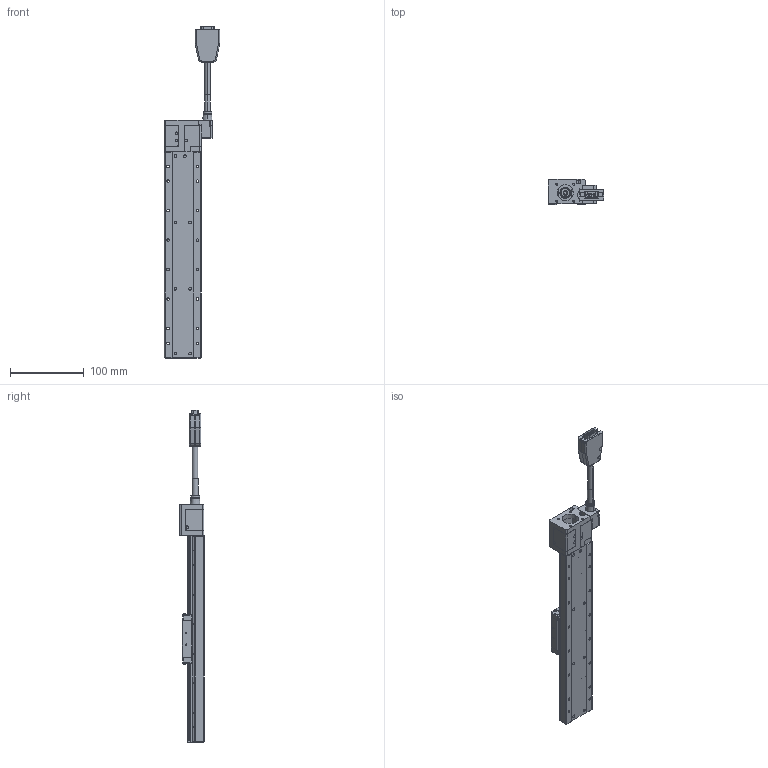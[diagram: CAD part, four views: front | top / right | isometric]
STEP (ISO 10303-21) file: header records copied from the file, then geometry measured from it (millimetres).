
FILE_DESCRIPTION (( 'STEP AP203' ), '1' );
FILE_NAME ('CXN50200-S2?N(42框無馬達).', '2024-01-05T02:36:35', ( '' ), ( '' ), 'SwSTEP 2.0', 'SolidWorks 2019', '' );
FILE_SCHEMA (( 'CONFIG_CONTROL_DESIGN' ));
Length unit declared in the file: millimetre
Products named in the file (3): Group2^CXN50200-S2?N(42框無馬達)_defeature_GMT; Group1^CXN50200-S2?N(42框無馬達)_defeature_GMT; CXN50200-S2?N(42框無馬達)
Assembly tree (2 placements, depth 2):
  CXN50200-S2?N(42框無馬達)
    Group1^CXN50200-S2?N(42框無馬達)_defeature_GMT
    Group2^CXN50200-S2?N(42框無馬達)_defeature_GMT
Bounding box: 75 x 33.5 x 450.6 mm (x, y, z)
Volume: 31082.9 mm3; surface area: 136735.9 mm2
Topology: 2 solids, 56 shells, 4567 faces, 11696 edges, 7114 vertices
Faces by surface type: plane 1616, cylinder 1369, cone 717, torus 349, bspline 320, sphere 196
Entity records: 149938 total; most frequent: CARTESIAN_POINT 40611, DIRECTION 23517, ORIENTED_EDGE 22780, EDGE_CURVE 11390, AXIS2_PLACEMENT_3D 8979, VERTEX_POINT 7017, LINE 5559, VECTOR 5559
